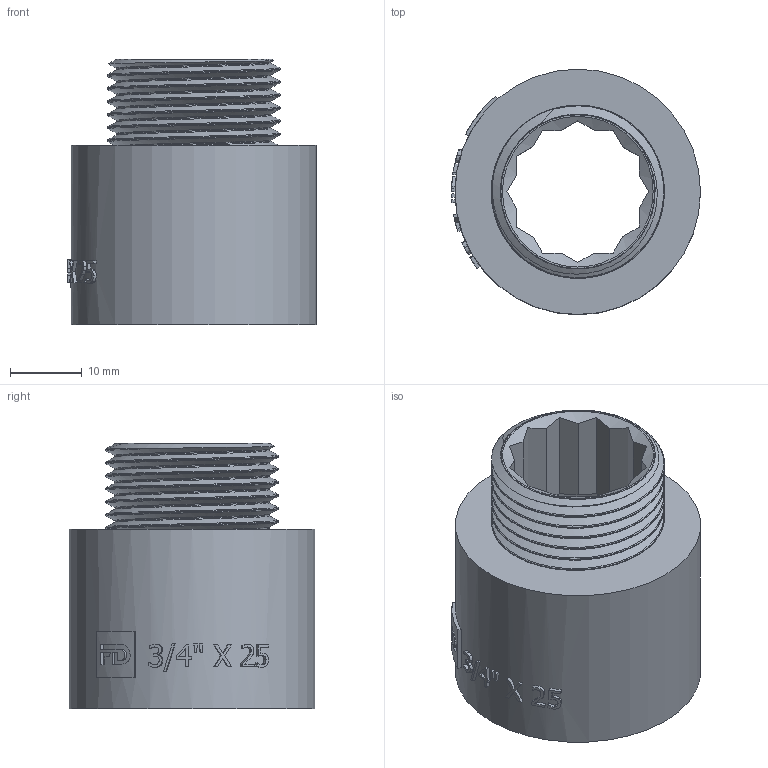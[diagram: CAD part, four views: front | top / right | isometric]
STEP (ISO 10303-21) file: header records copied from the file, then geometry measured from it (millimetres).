
FILE_DESCRIPTION(/* description */ (''),/* implementation_level */ '2;1');
FILE_NAME(/* name */ 'C:\Users\Doom\Desktop\Фадотех\Резьба\UN25 18.03.2020\UN25 18.03.2020.stp',/* time_stamp */ '2022-01-22T13:26:51+02:00',/* author */ ('Doom'),/* organization */ (''),/* preprocessor_version */ 'ST-DEVELOPER v18',/* originating_system */ 'Autodesk Inventor 2020',/* authorisation */ '');
FILE_SCHEMA (('AUTOMOTIVE_DESIGN { 1 0 10303 214 3 1 1 }'));
Length unit declared in the file: millimetre
Products named in the file (1): UD25 18.03.2020
Bounding box: 34.7 x 34.2 x 37 mm (x, y, z)
Volume: 12780 mm3; surface area: 14204.3 mm2
Topology: 3 solids, 3 shells, 208 faces, 578 edges, 388 vertices
Faces by surface type: plane 92, bspline 76, cylinder 36, cone 4
Full cylindrical faces by diameter (mm): 21.44 x2, 23.75 x9, 24.1 x1, 24.13 x5, 26.44 x2, 34.2 x1
Entity records: 17074 total; most frequent: CARTESIAN_POINT 12357, ORIENTED_EDGE 1148, DIRECTION 694, EDGE_CURVE 574, VERTEX_POINT 386, AXIS2_PLACEMENT_3D 237, EDGE_LOOP 228, LINE 220
